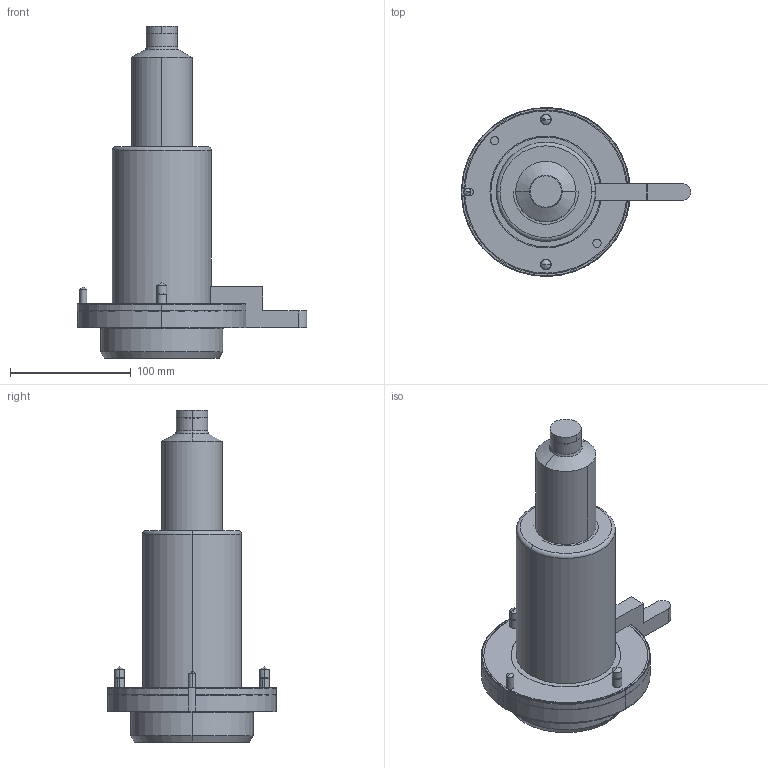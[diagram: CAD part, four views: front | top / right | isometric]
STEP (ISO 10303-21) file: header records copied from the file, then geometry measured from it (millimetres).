
FILE_DESCRIPTION (( 'STEP AP214' ), '1' );
FILE_NAME ('SB15_CLOSED_A250.STEP', '2009-07-28T12:42:07', ( 'Synventive Molding Solutions' ), ( 'Synventive Molding Solutions' ), 'SwSTEP 2.0', 'SolidWorks 2008', '' );
FILE_SCHEMA (( 'AUTOMOTIVE_DESIGN' ));
Length unit declared in the file: millimetre
Products named in the file (1): SB15_CLOSED_A250
Bounding box: 190 x 140 x 275 mm (x, y, z)
Volume: 2055882 mm3; surface area: 214801.5 mm2
Topology: 3 solids, 8 shells, 623 faces, 1556 edges, 968 vertices
Faces by surface type: cylinder 248, plane 220, torus 76, cone 69, sphere 6, bspline 4
Entity records: 26841 total; most frequent: CARTESIAN_POINT 4986, DIRECTION 3260, ORIENTED_EDGE 3076, EDGE_CURVE 1538, AXIS2_PLACEMENT_3D 1280, VERTEX_POINT 968, LINE 700, VECTOR 700
